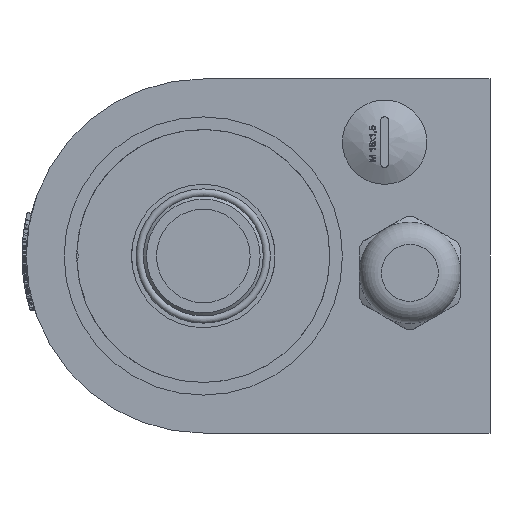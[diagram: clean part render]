
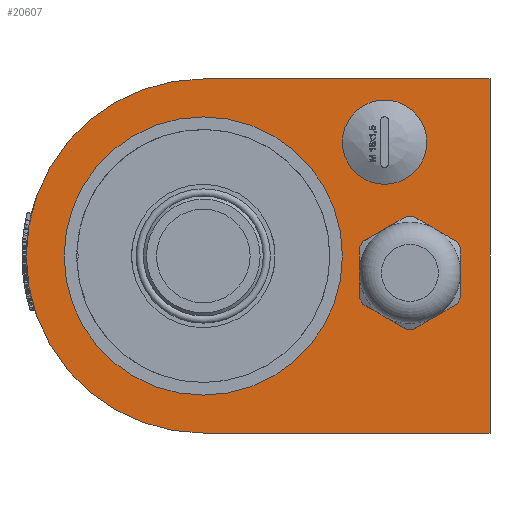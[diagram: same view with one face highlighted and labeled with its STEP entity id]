
A CAD part, front view. The second image highlights one B-rep face of the part: STEP entity #20607.
In plain terms, the highlighted planar face has unit normal (0, -1, 0).
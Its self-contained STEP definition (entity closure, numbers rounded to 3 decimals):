
#612=FACE_BOUND('',#6886,.T.);
#613=FACE_BOUND('',#6887,.T.);
#614=FACE_BOUND('',#6888,.T.);
#2012=LINE('',#26570,#3589);
#2016=LINE('',#26608,#3593);
#2019=LINE('',#26612,#3596);
#2040=LINE('',#26673,#3617);
#2041=LINE('',#26675,#3618);
#2042=LINE('',#26677,#3619);
#2043=LINE('',#26679,#3620);
#2044=LINE('',#26681,#3621);
#2045=LINE('',#26683,#3622);
#2046=LINE('',#26685,#3623);
#2047=LINE('',#26687,#3624);
#2048=LINE('',#26689,#3625);
#2049=LINE('',#26691,#3626);
#2050=LINE('',#26693,#3627);
#2051=LINE('',#26694,#3628);
#3589=VECTOR('',#22873,10.);
#3593=VECTOR('',#22881,10.);
#3596=VECTOR('',#22886,10.);
#3617=VECTOR('',#22947,10.);
#3618=VECTOR('',#22948,10.);
#3619=VECTOR('',#22949,10.);
#3620=VECTOR('',#22950,10.);
#3621=VECTOR('',#22951,10.);
#3622=VECTOR('',#22952,10.);
#3623=VECTOR('',#22953,10.);
#3624=VECTOR('',#22954,10.);
#3625=VECTOR('',#22955,10.);
#3626=VECTOR('',#22956,10.);
#3627=VECTOR('',#22957,10.);
#3628=VECTOR('',#22958,10.);
#5176=PLANE('',#21826);
#5697=FACE_OUTER_BOUND('',#6885,.T.);
#6885=EDGE_LOOP('',(#14024,#14025,#14026,#14027));
#6886=EDGE_LOOP('',(#14028,#14029));
#6887=EDGE_LOOP('',(#14030,#14031,#14032,#14033,#14034,#14035,#14036,#14037,
#14038,#14039,#14040,#14041));
#6888=EDGE_LOOP('',(#14042));
#8171=CIRCLE('',#21827,42.);
#8172=CIRCLE('',#21828,10.);
#8173=CIRCLE('',#21829,10.);
#8174=CIRCLE('',#21830,33.);
#8596=VERTEX_POINT('',#26567);
#8597=VERTEX_POINT('',#26569);
#8604=VERTEX_POINT('',#26605);
#8605=VERTEX_POINT('',#26607);
#8622=VERTEX_POINT('',#26667);
#8623=VERTEX_POINT('',#26668);
#8624=VERTEX_POINT('',#26671);
#8625=VERTEX_POINT('',#26672);
#8626=VERTEX_POINT('',#26674);
#8627=VERTEX_POINT('',#26676);
#8628=VERTEX_POINT('',#26678);
#8629=VERTEX_POINT('',#26680);
#8630=VERTEX_POINT('',#26682);
#8631=VERTEX_POINT('',#26684);
#8632=VERTEX_POINT('',#26686);
#8633=VERTEX_POINT('',#26688);
#8634=VERTEX_POINT('',#26690);
#8635=VERTEX_POINT('',#26692);
#8636=VERTEX_POINT('',#26695);
#10739=EDGE_CURVE('',#8596,#8597,#2012,.T.);
#10747=EDGE_CURVE('',#8604,#8605,#2016,.T.);
#10750=EDGE_CURVE('',#8605,#8596,#2019,.T.);
#10776=EDGE_CURVE('',#8597,#8604,#8171,.T.);
#10777=EDGE_CURVE('',#8622,#8623,#8172,.T.);
#10778=EDGE_CURVE('',#8623,#8622,#8173,.T.);
#10779=EDGE_CURVE('',#8624,#8625,#2040,.T.);
#10780=EDGE_CURVE('',#8625,#8626,#2041,.T.);
#10781=EDGE_CURVE('',#8626,#8627,#2042,.T.);
#10782=EDGE_CURVE('',#8627,#8628,#2043,.T.);
#10783=EDGE_CURVE('',#8628,#8629,#2044,.T.);
#10784=EDGE_CURVE('',#8629,#8630,#2045,.T.);
#10785=EDGE_CURVE('',#8630,#8631,#2046,.T.);
#10786=EDGE_CURVE('',#8631,#8632,#2047,.T.);
#10787=EDGE_CURVE('',#8632,#8633,#2048,.T.);
#10788=EDGE_CURVE('',#8633,#8634,#2049,.T.);
#10789=EDGE_CURVE('',#8634,#8635,#2050,.T.);
#10790=EDGE_CURVE('',#8635,#8624,#2051,.T.);
#10791=EDGE_CURVE('',#8636,#8636,#8174,.T.);
#14024=ORIENTED_EDGE('',*,*,#10750,.F.);
#14025=ORIENTED_EDGE('',*,*,#10747,.F.);
#14026=ORIENTED_EDGE('',*,*,#10776,.F.);
#14027=ORIENTED_EDGE('',*,*,#10739,.F.);
#14028=ORIENTED_EDGE('',*,*,#10777,.T.);
#14029=ORIENTED_EDGE('',*,*,#10778,.T.);
#14030=ORIENTED_EDGE('',*,*,#10779,.T.);
#14031=ORIENTED_EDGE('',*,*,#10780,.T.);
#14032=ORIENTED_EDGE('',*,*,#10781,.T.);
#14033=ORIENTED_EDGE('',*,*,#10782,.T.);
#14034=ORIENTED_EDGE('',*,*,#10783,.T.);
#14035=ORIENTED_EDGE('',*,*,#10784,.T.);
#14036=ORIENTED_EDGE('',*,*,#10785,.T.);
#14037=ORIENTED_EDGE('',*,*,#10786,.T.);
#14038=ORIENTED_EDGE('',*,*,#10787,.T.);
#14039=ORIENTED_EDGE('',*,*,#10788,.T.);
#14040=ORIENTED_EDGE('',*,*,#10789,.T.);
#14041=ORIENTED_EDGE('',*,*,#10790,.T.);
#14042=ORIENTED_EDGE('',*,*,#10791,.T.);
#20607=ADVANCED_FACE('',(#5697,#612,#613,#614),#5176,.F.);
#21826=AXIS2_PLACEMENT_3D('',#26665,#22939,#22940);
#21827=AXIS2_PLACEMENT_3D('',#26666,#22941,#22942);
#21828=AXIS2_PLACEMENT_3D('',#26669,#22943,#22944);
#21829=AXIS2_PLACEMENT_3D('',#26670,#22945,#22946);
#21830=AXIS2_PLACEMENT_3D('',#26696,#22959,#22960);
#22873=DIRECTION('',(-1.,0.,0.));
#22881=DIRECTION('',(1.,0.,0.));
#22886=DIRECTION('',(0.,0.,-1.));
#22939=DIRECTION('center_axis',(0.,1.,0.));
#22940=DIRECTION('ref_axis',(0.,0.,
-1.));
#22941=DIRECTION('center_axis',(0.,1.,0.));
#22942=DIRECTION('ref_axis',(0.,0.,
-1.));
#22943=DIRECTION('center_axis',(0.,1.,0.));
#22944=DIRECTION('ref_axis',(0.,0.,
-1.));
#22945=DIRECTION('center_axis',(0.,1.,0.));
#22946=DIRECTION('ref_axis',(0.,0.,
-1.));
#22947=DIRECTION('',(-0.5,0.,-0.866));
#22948=DIRECTION('',(-0.866,0.,-0.5));
#22949=DIRECTION('',(-1.,0.,0.));
#22950=DIRECTION('',(-0.866,0.,0.5));
#22951=DIRECTION('',(-0.5,0.,0.866));
#22952=DIRECTION('',(0.,0.,1.));
#22953=DIRECTION('',(0.5,0.,0.866));
#22954=DIRECTION('',(0.866,0.,0.5));
#22955=DIRECTION('',(1.,0.,0.));
#22956=DIRECTION('',(0.866,0.,-0.5));
#22957=DIRECTION('',(0.5,0.,-0.866));
#22958=DIRECTION('',(0.,0.,-1.));
#22959=DIRECTION('center_axis',(0.,1.,0.));
#22960=DIRECTION('ref_axis',(0.,0.,
-1.));
#26567=CARTESIAN_POINT('',(68.,66.5,-42.));
#26569=CARTESIAN_POINT('',(0.,66.5,-42.));
#26570=CARTESIAN_POINT('',(68.,66.5,-42.));
#26605=CARTESIAN_POINT('',(0.,66.5,42.));
#26607=CARTESIAN_POINT('',(68.,66.5,42.));
#26608=CARTESIAN_POINT('',(0.,66.5,42.));
#26612=CARTESIAN_POINT('',(68.,66.5,42.));
#26665=CARTESIAN_POINT('Origin',(20.33,66.5,0.));
#26666=CARTESIAN_POINT('Origin',(0.,66.5,0.));
#26667=CARTESIAN_POINT('',(43.,66.5,17.));
#26668=CARTESIAN_POINT('',(43.,66.5,37.));
#26669=CARTESIAN_POINT('Origin',(43.,66.5,27.));
#26670=CARTESIAN_POINT('Origin',(43.,66.5,27.));
#26671=CARTESIAN_POINT('',(61.,66.5,-9.928));
#26672=CARTESIAN_POINT('',(60.134,66.5,-11.428));
#26673=CARTESIAN_POINT('',(57.633,66.5,-15.76));
#26674=CARTESIAN_POINT('',(49.866,66.5,-17.356));
#26675=CARTESIAN_POINT('',(48.115,66.5,-18.367));
#26676=CARTESIAN_POINT('',(48.134,66.5,-17.356));
#26677=CARTESIAN_POINT('',(34.232,66.5,-17.356));
#26678=CARTESIAN_POINT('',(37.866,66.5,-11.428));
#26679=CARTESIAN_POINT('',(34.383,66.5,-9.417));
#26680=CARTESIAN_POINT('',(37.,66.5,-9.928));
#26681=CARTESIAN_POINT('',(32.767,66.5,-2.596));
#26682=CARTESIAN_POINT('',(37.,66.5,1.928));
#26683=CARTESIAN_POINT('',(37.,66.5,-5.464));
#26684=CARTESIAN_POINT('',(37.866,66.5,3.428));
#26685=CARTESIAN_POINT('',(34.932,66.5,-1.654));
#26686=CARTESIAN_POINT('',(48.134,66.5,9.356));
#26687=CARTESIAN_POINT('',(30.115,66.5,-1.047));
#26688=CARTESIAN_POINT('',(49.866,66.5,9.356));
#26689=CARTESIAN_POINT('',(35.098,66.5,9.356));
#26690=CARTESIAN_POINT('',(60.134,66.5,3.428));
#26691=CARTESIAN_POINT('',(40.383,66.5,14.832));
#26692=CARTESIAN_POINT('',(61.,66.5,1.928));
#26693=CARTESIAN_POINT('',(56.334,66.5,10.01));
#26694=CARTESIAN_POINT('',(61.,66.5,1.464));
#26695=CARTESIAN_POINT('',(0.,66.5,33.));
#26696=CARTESIAN_POINT('Origin',(0.,66.5,0.));
